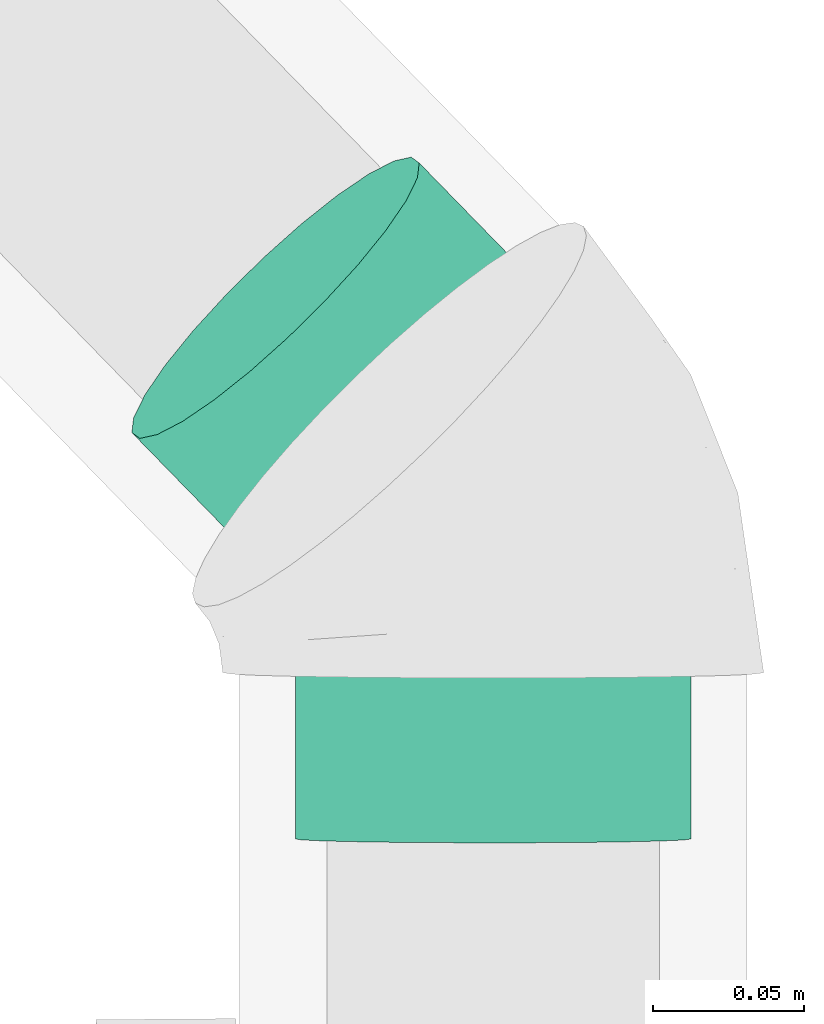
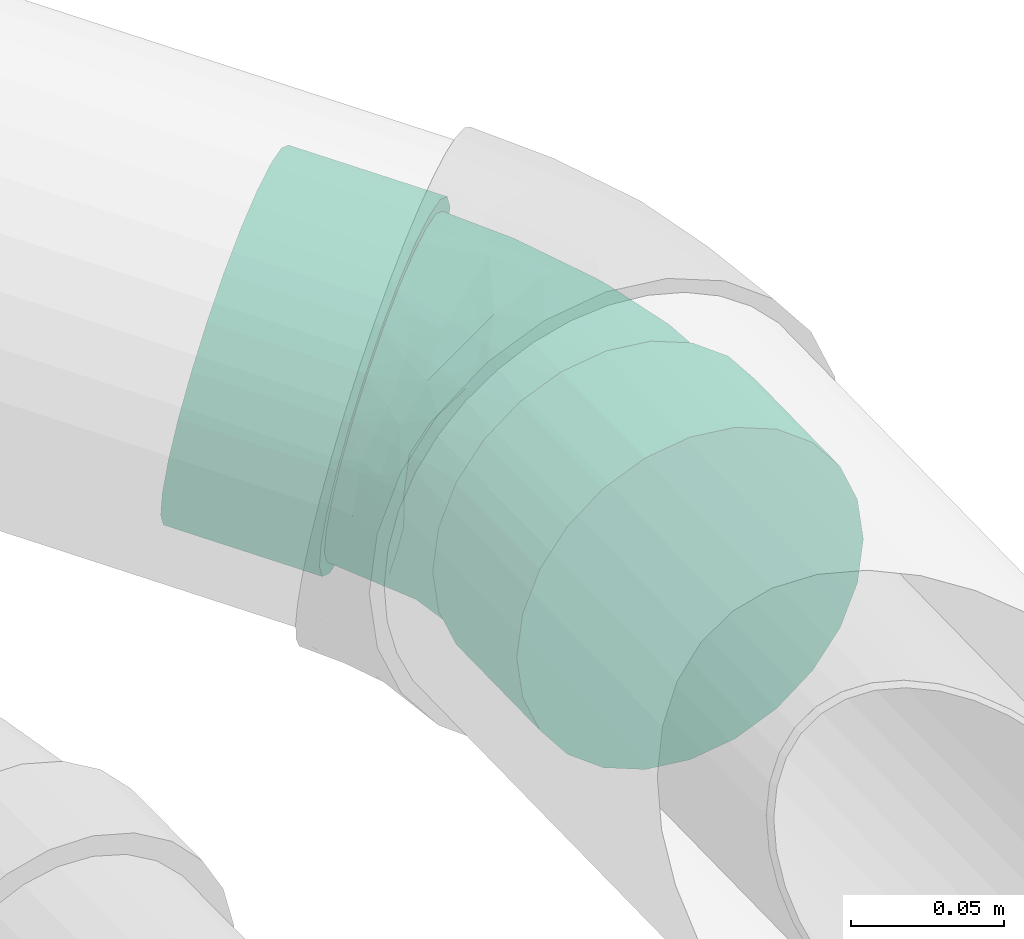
# One storey, part 72 of 78: 1 flow fitting.
"""IFC2X3 building model written with IfcOpenShell, lengths in millimetres."""

from ifc_helpers import new_model, entity, si_unit, converted_unit, derived_unit, direction, frame, origin_with_axes, place, context, subcontext, project, spatial, open_shell, surface_model, source, transform, mapped, type_object, element, save


model = new_model("IFC2X3")

# Units and contexts
model_context = context("Model", 3, precision=0.01, world=frame((0.0, 4.29681676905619e-09, 0.0)), true_north=direction((4.01073788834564e-13, 1.0)))
plan_context = context("Plan", 3, precision=0.01, world=frame((0.0, 4.29681676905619e-09, 0.0)), true_north=direction((4.01073788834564e-13, 1.0)))
body_context = subcontext(model_context, "Body", "Model", "MODEL_VIEW")
ifc_project = project(units=[converted_unit("PLANEANGLEUNIT", "DEGREE", entity("IfcPositiveLengthMeasure", 0.0174532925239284), si_unit("PLANEANGLEUNIT", "RADIAN"), dimensions=[0, 0, 0, 0, 0, 0, 0]), si_unit("AREAUNIT", "SQUARE_METRE"), si_unit("LENGTHUNIT", "METRE", prefix="MILLI"), si_unit("MASSUNIT", "GRAM", prefix="KILO"), si_unit("POWERUNIT", "WATT"), si_unit("PRESSUREUNIT", "PASCAL"), si_unit("FORCEUNIT", "NEWTON", prefix="KILO"), si_unit("ELECTRICVOLTAGEUNIT", "VOLT"), si_unit("ELECTRICCURRENTUNIT", "AMPERE"), si_unit("THERMODYNAMICTEMPERATUREUNIT", "DEGREE_CELSIUS"), si_unit("TIMEUNIT", "SECOND"), si_unit("VOLUMEUNIT", "CUBIC_METRE"), derived_unit("LINEARVELOCITYUNIT", [(si_unit("LENGTHUNIT", "METRE"), 1), (si_unit("TIMEUNIT", "SECOND"), -1)]), derived_unit("VOLUMETRICFLOWRATEUNIT", [(si_unit("VOLUMEUNIT", "CUBIC_METRE"), 1), (si_unit("TIMEUNIT", "SECOND"), -1)]), derived_unit("THERMALTRANSMITTANCEUNIT", [(si_unit("POWERUNIT", "WATT"), 1), (si_unit("THERMODYNAMICTEMPERATUREUNIT", "KELVIN"), -1), (si_unit("AREAUNIT", "SQUARE_METRE"), -1)]), derived_unit("SOUNDPRESSUREUNIT", [(si_unit("PRESSUREUNIT", "PASCAL"), 1)])], contexts=[model_context, plan_context])

# Site, building, storey
site_placement = place(None, frame((0.0, -4.29681676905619e-09, 0.0), z_axis=(0.0, 0.0, 1.0), x_axis=(1.0, 0.0, 0.0)))
site = spatial("IfcSite", under=ifc_project, at=site_placement, Name="ENGM", CompositionType="ELEMENT")
building_placement = place(site_placement, frame((0.0, 4.29681676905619e-09, 0.0), z_axis=(0.0, 0.0, 1.0), x_axis=(1.0, 0.0, 0.0)))
building = spatial("IfcBuilding", under=site, at=building_placement, Name="TH", CompositionType="ELEMENT")
storey_placement = place(building_placement, frame((0.0, 0.0, 205200.0), z_axis=(0.0, 0.0, 1.0), x_axis=(1.0, 0.0, 0.0)))
storey = spatial("IfcBuildingStorey", under=building, at=storey_placement, Name="Nivå D + 1,2 m", CompositionType="ELEMENT", Elevation=205200.0)

# Flow fitting
pipe_fitting_type = type_object("IfcPipeFittingType", Name="magi_sewer_bend_001", PredefinedType="BEND")
shared_shape = source(origin_with_axes(), body_context, "Body", "SurfaceModel", [
    surface_model("IfcShellBasedSurfaceModel", [(-105.11984, -16.95265, -63.26814), (-105.11984, -32.75, -56.72466), (-105.11984, -46.3155, -46.3155), (-105.11984, -63.26814, -16.95265), (-105.11984, -56.72466, -32.75), (-105.11984, 56.72466, -32.75), (-105.11984, 46.3155, -46.3155), (-105.11984, -63.26814, 16.95265), (-105.11984, -56.72466, 32.75), (-105.11984, -46.3155, 46.3155), (-105.11984, -16.95265, 63.26814), (-105.11984, 0.0, 65.5), (-105.11984, -32.75, 56.72466), (-105.11984, 63.26814, 16.95265), (-105.11984, 46.3155, 46.3155), (-105.11984, 56.72466, 32.75), (-105.11984, 16.95265, 63.26814), (-105.11984, 32.75, 56.72466), (-50.11984, -16.95265, 63.26814), (-50.11984, 16.95265, 63.26814), (-50.11984, 0.0, 65.5), (-50.11984, -46.3155, 46.3155), (-50.11984, -32.75, 56.72466), (-50.11984, -56.72466, 32.75), (-50.11984, -63.26814, 16.95265), (-50.11984, 46.3155, 46.3155), (-50.11984, 32.75, 56.72466), (-50.11984, 63.26814, 16.95265), (-50.11984, 56.72466, 32.75), (-50.11984, 63.26814, -16.95265), (-50.11984, 65.5, 0.0), (-50.11984, -63.26814, -16.95265), (-50.11984, 32.75, -56.72466), (-50.11984, -65.5, 0.0), (-50.11984, -16.95265, -63.26814), (-50.11984, -56.72466, -32.75), (-50.11984, -46.3155, -46.3155), (-50.11984, -32.75, -56.72466), (-50.11984, 0.0, -65.5), (-50.11984, 46.3155, -46.3155), (-50.11984, 56.72466, -32.75), (-50.11984, 16.95265, -63.26814), (-105.11984, 63.26814, -16.95265), (-105.11984, 16.95265, -63.26814), (-105.11984, 65.5, 0.0), (-105.11984, 32.75, -56.72466), (-105.11984, 0.0, -65.5), (-105.11984, -65.5, 0.0), (29.59362, 119.06829, 16.95265), (51.17321, 97.4887, -56.72466), (41.58095, 107.08095, -46.3155), (86.31829, 62.34362, 63.26814), (97.4887, 51.17321, 56.72466), (107.08095, 41.58095, 46.3155), (86.31829, 62.34362, -63.26814), (120.64644, 28.01546, 0.0), (81.75557, -10.87541, 0.0), (80.17741, -9.29725, 16.95265), (75.55048, -4.67032, 32.75), (68.19008, 2.69008, 46.3155), (58.59783, 12.28233, 56.72466), (47.42741, 23.45275, 63.26814), (68.19008, 2.69008, -46.3155), (47.42741, 23.45275, -63.26814), (58.59783, 12.28233, -56.72466), (23.45275, 47.42741, -63.26814), (62.34362, 86.31829, -63.26814), (35.44008, 35.44008, -65.5), (12.28233, 58.59783, -56.72466), (-9.29725, 80.17741, -16.95265), (-10.87541, 81.75557, 0.0), (29.59362, 119.06829, -16.95265), (2.69008, 68.19008, -46.3155), (74.33095, 74.33095, -65.5), (34.22056, 114.44134, -32.75), (-4.67032, 75.55048, -32.75), (28.01546, 120.64644, 0.0), (-9.29725, 80.17741, 16.95265), (-4.67032, 75.55048, 32.75), (2.69008, 68.19008, 46.3155), (34.22056, 114.44134, 32.75), (51.17321, 97.4887, 56.72466), (12.28233, 58.59783, 56.72466), (23.45275, 47.42741, 63.26814), (41.58095, 107.08095, 46.3155), (62.34362, 86.31829, 63.26814), (35.44008, 35.44008, 65.5), (74.33095, 74.33095, 65.5), (114.44134, 34.22056, 32.75), (119.06829, 29.59362, 16.95265), (119.06829, 29.59362, -16.95265), (80.17741, -9.29725, -16.95265), (75.55048, -4.67032, -32.75), (114.44134, 34.22056, -32.75), (97.4887, 51.17321, -56.72466), (107.08095, 41.58095, -46.3155), (-50.11984, 15.65855, -58.43851), (-50.11984, 0.0, -60.5), (-50.11984, 58.43851, -15.65855), (-50.11984, 30.25, -52.39454), (-50.11984, 52.39454, -30.25), (-50.11984, 42.77996, -42.77996), (-50.11984, -60.5, 0.0), (-50.11984, -30.25, -52.39454), (-50.11984, -42.77996, -42.77996), (-50.11984, -15.65855, -58.43851), (-50.11984, -58.43851, -15.65855), (-50.11984, -52.39454, -30.25), (-50.11984, -58.43851, 15.65855), (-50.11984, 58.43851, 15.65855), (-50.11984, 52.39454, 30.25), (-50.11984, 42.77996, 42.77996), (-50.11984, 30.25, 52.39454), (-50.11984, 15.65855, 58.43851), (-50.11984, -52.39454, 30.25), (-50.11984, -42.77996, 42.77996), (-50.11984, -30.25, 52.39454), (-50.11984, -15.65855, 58.43851), (-50.11984, 0.0, 60.5), (-50.11984, 60.5, 0.0), (-5.88219, 76.76235, -15.65855), (35.44008, 35.44008, -60.5), (24.36781, 46.51235, -58.43851), (14.0501, 56.83006, -52.39454), (5.19008, 65.69008, -42.77996), (-1.60845, 72.48861, -30.25), (72.48861, -1.60845, -30.25), (78.22004, -7.33988, 0.0), (76.76235, -5.88219, -15.65855), (65.69008, 5.19008, -42.77996), (72.48861, -1.60845, 30.25), (56.83006, 14.0501, 52.39454), (65.69008, 5.19008, 42.77996), (76.76235, -5.88219, 15.65855), (35.44008, 35.44008, 60.5), (46.51235, 24.36781, 58.43851), (15.40898, -37.20057, 33.71482), (-13.38469, -34.19321, 46.68416), (-19.53618, -46.27104, 35.42508), (-20.21421, -56.56285, 0.0), (-3.14418, -54.31554, 0.0), (-12.91334, -55.73755, 10.33096), (46.53273, -18.9044, 35.42508), (-23.97238, -22.18485, 55.29389), (6.21199, -14.99708, 54.53161), (24.36781, 46.51235, 58.43851), (1.79579, 36.37132, 56.46814), (10.937, 28.63799, 59.62004), (-18.05654, -5.82509, 59.69848), (-5.75437, 13.89228, 60.2874), (-30.31328, 8.38356, 60.13285), (-17.18515, 41.48861, 49.39252), (-26.68033, 50.73817, 38.17957), (32.63809, 1.26397, 55.29389), (-23.24601, 25.1757, 56.55898), (14.0501, 56.83006, 52.39454), (5.19008, 65.69008, 42.77996), (23.34807, -39.59646, 23.84351), (-10.84785, -52.34167, 21.0101), (18.78371, -45.3479, 13.14971), (-24.92328, 60.17012, 24.85601), (48.54351, -30.28129, 10.33096), (54.28958, -25.70237, 0.0), (-24.23293, 64.82746, 12.71177), (44.68174, -29.34056, 21.0101), (16.88687, 8.64894, 59.69848), (33.64265, -14.71385, 46.68416), (-1.60845, 72.48861, 30.25), (-5.88219, 76.76235, 15.65855), (-26.96749, 65.10529, 0.0), (-7.33988, 78.22004, 0.0), (10.1548, -24.51586, 48.24539), (18.74299, -45.24957, 0.0), (40.63016, -36.18361, 0.0), (-18.05654, -5.82509, -59.69848), (-12.91334, -55.73755, -10.33096), (18.78371, -45.3479, -13.1497), (46.51235, 24.36781, -58.43851), (16.88687, 8.64894, -59.69848), (-26.98822, 24.44859, -56.46814), (-27.98374, 12.51649, -59.62004), (-17.01146, 54.74315, -38.17957), (56.83006, 14.0501, -52.39454), (33.64265, -14.71385, -46.68416), (-24.92328, 60.17012, -24.85601), (44.68174, -29.34056, -21.0101), (-28.70466, 62.9752, -12.71176), (-1.3645, 34.23932, -56.55898), (-10.84785, -52.34167, -21.0101), (-17.18515, 41.48861, -49.39253), (-19.53618, -46.27104, -35.42508), (-13.38469, -34.19321, -46.68416), (10.1548, -24.51586, -48.24539), (15.40898, -37.20057, -33.71482), (-23.97238, -22.18485, -55.29389), (32.63809, 1.26397, -55.29389), (6.21199, -14.99708, -54.53161), (48.54351, -30.28129, -10.33096), (15.50665, 27.3628, -60.13285), (11.48935, -44.50851, -23.84351), (46.53273, -18.9044, -35.42508), (-5.75437, 13.89228, -60.2874)], [open_shell([[[0, 1, 2]], [[0, 2, 3]], [[3, 2, 4]], [[0, 5, 6]], [[7, 8, 9]], [[10, 11, 9]], [[10, 9, 12]], [[13, 14, 15]], [[14, 16, 17]], [[16, 14, 13]], [[18, 19, 20]], [[21, 18, 22]], [[21, 23, 24]], [[18, 21, 19]], [[24, 19, 21]], [[19, 25, 26]], [[25, 19, 27]], [[25, 27, 28]], [[19, 24, 27]], [[27, 29, 30]], [[27, 24, 29]], [[31, 32, 33]], [[34, 31, 35]], [[36, 37, 34]], [[36, 34, 35]], [[38, 31, 34]], [[33, 39, 40]], [[40, 29, 33]], [[32, 38, 41]], [[32, 39, 33]], [[32, 31, 38]], [[33, 29, 24]], [[29, 42, 30]], [[40, 5, 29]], [[41, 38, 43]], [[39, 6, 40]], [[29, 5, 42]], [[42, 44, 30]], [[45, 32, 43]], [[45, 6, 39]], [[32, 41, 43]], [[6, 5, 40]], [[39, 32, 45]], [[38, 46, 43]], [[0, 34, 37]], [[36, 1, 37]], [[4, 35, 31]], [[36, 35, 2]], [[3, 31, 33]], [[34, 0, 46]], [[37, 1, 0]], [[36, 2, 1]], [[35, 4, 2]], [[3, 4, 31]], [[33, 47, 3]], [[34, 46, 38]], [[24, 7, 33]], [[23, 8, 24]], [[22, 12, 21]], [[21, 9, 23]], [[24, 8, 7]], [[7, 47, 33]], [[11, 10, 18]], [[10, 12, 22]], [[9, 21, 12]], [[9, 8, 23]], [[18, 10, 22]], [[18, 20, 11]], [[16, 19, 26]], [[25, 17, 26]], [[15, 28, 27]], [[25, 28, 14]], [[13, 27, 30]], [[19, 16, 11]], [[26, 17, 16]], [[25, 14, 17]], [[28, 15, 14]], [[13, 15, 27]], [[30, 44, 13]], [[19, 11, 20]], [[48, 49, 50]], [[51, 52, 53]], [[54, 51, 53]], [[54, 53, 55]], [[56, 57, 58]], [[59, 60, 61]], [[62, 63, 64]], [[65, 66, 67]], [[68, 49, 65]], [[69, 70, 71]], [[72, 50, 68]], [[65, 49, 66]], [[66, 73, 67]], [[74, 75, 71]], [[74, 50, 72]], [[75, 69, 71]], [[50, 49, 68]], [[72, 75, 74]], [[70, 76, 71]], [[48, 77, 78]], [[79, 80, 78]], [[81, 82, 83]], [[79, 82, 84]], [[85, 83, 86]], [[77, 48, 76]], [[78, 80, 48]], [[79, 84, 80]], [[82, 81, 84]], [[85, 81, 83]], [[86, 87, 85]], [[77, 76, 70]], [[61, 51, 86]], [[60, 52, 61]], [[58, 88, 59]], [[59, 53, 60]], [[61, 52, 51]], [[51, 87, 86]], [[55, 89, 57]], [[89, 88, 58]], [[53, 59, 88]], [[53, 52, 60]], [[57, 89, 58]], [[57, 56, 55]], [[90, 91, 92]], [[62, 93, 92]], [[94, 64, 63]], [[62, 64, 95]], [[54, 63, 67]], [[91, 90, 55]], [[92, 93, 90]], [[62, 95, 93]], [[64, 94, 95]], [[54, 94, 63]], [[67, 73, 54]], [[91, 55, 56]], [[96, 97, 98]], [[99, 96, 98]], [[98, 100, 101]], [[99, 98, 101]], [[102, 98, 97]], [[103, 104, 105]], [[104, 97, 105]], [[106, 102, 107]], [[104, 107, 102]], [[104, 102, 97]], [[102, 108, 98]], [[109, 98, 108]], [[110, 109, 111]], [[112, 109, 108]], [[111, 109, 112]], [[113, 112, 108]], [[114, 115, 108]], [[116, 108, 115]], [[117, 118, 116]], [[108, 116, 118]], [[118, 113, 108]], [[119, 98, 109]], [[120, 121, 122]], [[120, 122, 123]], [[124, 125, 120]], [[124, 120, 123]], [[126, 127, 128]], [[127, 126, 129]], [[130, 131, 132]], [[131, 130, 133]], [[131, 134, 135]], [[134, 131, 133]], [[136, 137, 138]], [[139, 140, 141]], [[116, 115, 137]], [[130, 132, 142]], [[143, 137, 144]], [[138, 137, 115]], [[145, 146, 147]], [[117, 116, 143]], [[148, 149, 150]], [[118, 117, 148]], [[111, 151, 152]], [[131, 135, 153]], [[150, 113, 118]], [[112, 154, 151]], [[108, 139, 141]], [[155, 156, 151]], [[157, 158, 159]], [[151, 111, 112]], [[115, 114, 138]], [[110, 152, 160]], [[109, 110, 160]], [[133, 161, 162]], [[163, 119, 109]], [[164, 157, 159]], [[158, 141, 159]], [[112, 113, 154]], [[134, 147, 165]], [[132, 131, 166]], [[167, 168, 160]], [[165, 135, 134]], [[136, 138, 158]], [[132, 166, 142]], [[149, 147, 146]], [[166, 131, 153]], [[114, 158, 138]], [[161, 133, 164]], [[136, 142, 166]], [[150, 154, 113]], [[136, 157, 142]], [[109, 160, 163]], [[114, 108, 158]], [[169, 163, 170]], [[137, 171, 144]], [[168, 163, 160]], [[144, 165, 148]], [[167, 160, 152]], [[144, 153, 165]], [[167, 152, 156]], [[149, 148, 165]], [[145, 155, 146]], [[146, 151, 154]], [[143, 148, 117]], [[110, 111, 152]], [[164, 133, 130]], [[164, 130, 142]], [[171, 136, 166]], [[156, 152, 151]], [[151, 146, 155]], [[149, 146, 154]], [[137, 143, 116]], [[148, 143, 144]], [[165, 153, 135]], [[166, 153, 144]], [[108, 102, 139]], [[159, 140, 172]], [[108, 141, 158]], [[140, 159, 141]], [[161, 159, 173]], [[162, 161, 173]], [[162, 127, 133]], [[159, 161, 164]], [[165, 147, 149]], [[134, 145, 147]], [[148, 150, 118]], [[154, 150, 149]], [[136, 171, 137]], [[166, 144, 171]], [[170, 163, 168]], [[163, 169, 119]], [[142, 157, 164]], [[158, 157, 136]], [[173, 159, 172]], [[105, 97, 174]], [[140, 175, 176]], [[121, 177, 178]], [[179, 180, 96]], [[100, 181, 101]], [[182, 129, 183]], [[184, 181, 100]], [[126, 128, 185]], [[98, 186, 184]], [[123, 122, 187]], [[106, 175, 139]], [[99, 179, 96]], [[175, 106, 188]], [[124, 189, 181]], [[188, 107, 190]], [[190, 104, 191]], [[104, 103, 191]], [[192, 193, 191]], [[106, 107, 188]], [[104, 190, 107]], [[194, 103, 105]], [[195, 178, 177]], [[120, 125, 184]], [[196, 194, 174]], [[119, 169, 186]], [[193, 190, 191]], [[170, 120, 186]], [[196, 174, 178]], [[124, 123, 189]], [[184, 100, 98]], [[125, 181, 184]], [[194, 191, 103]], [[187, 189, 123]], [[180, 174, 97]], [[189, 187, 179]], [[101, 189, 99]], [[128, 162, 197]], [[198, 122, 121]], [[195, 177, 182]], [[199, 185, 176]], [[129, 200, 183]], [[196, 195, 183]], [[129, 126, 200]], [[201, 198, 178]], [[200, 193, 183]], [[201, 178, 174]], [[197, 162, 173]], [[198, 187, 122]], [[201, 180, 179]], [[175, 188, 176]], [[193, 199, 190]], [[183, 192, 196]], [[126, 185, 200]], [[120, 184, 186]], [[193, 200, 185]], [[125, 124, 181]], [[101, 181, 189]], [[189, 179, 99]], [[201, 179, 187]], [[174, 194, 105]], [[191, 194, 196]], [[183, 195, 182]], [[178, 195, 196]], [[139, 175, 140]], [[139, 102, 106]], [[199, 176, 188]], [[197, 176, 185]], [[176, 173, 172]], [[128, 127, 162]], [[176, 197, 173]], [[128, 197, 185]], [[174, 180, 201]], [[97, 96, 180]], [[178, 198, 121]], [[187, 198, 201]], [[193, 192, 183]], [[191, 196, 192]], [[119, 186, 98]], [[186, 169, 170]], [[190, 199, 188]], [[185, 199, 193]], [[140, 176, 172]], [[0, 3, 5]], [[5, 3, 47]], [[0, 43, 46]], [[0, 45, 43]], [[6, 45, 0]], [[47, 42, 5]], [[47, 7, 42]], [[42, 9, 13]], [[13, 9, 11]], [[44, 42, 13]], [[11, 16, 13]], [[42, 7, 9]], [[85, 48, 81]], [[54, 95, 94]], [[95, 90, 93]], [[79, 83, 82]], [[79, 78, 77]], [[177, 129, 182]], [[177, 121, 129]], [[168, 120, 170]], [[71, 50, 74]], [[55, 90, 54]], [[63, 65, 67]], [[133, 145, 134]], [[81, 48, 80]], [[81, 80, 84]], [[72, 69, 75]], [[120, 168, 155]], [[63, 61, 86]], [[155, 167, 156]], [[49, 73, 66]], [[91, 62, 92]], [[70, 68, 65]], [[65, 77, 70]], [[49, 48, 73]], [[48, 85, 73]], [[71, 76, 48]], [[50, 71, 48]], [[85, 87, 73]], [[88, 89, 55]], [[88, 55, 53]], [[54, 73, 51]], [[90, 95, 54]], [[51, 73, 87]], [[91, 56, 58]], [[91, 58, 59]], [[63, 59, 61]], [[62, 91, 63]], [[91, 59, 63]], [[79, 86, 83]], [[79, 77, 86]], [[77, 65, 63]], [[68, 70, 72]], [[69, 72, 70]], [[77, 63, 86]], [[121, 120, 129]], [[129, 133, 127]], [[129, 120, 133]], [[155, 168, 167]], [[120, 155, 133]], [[133, 155, 145]]])]),
])
flow_fitting_placement = place(storey_placement, frame((903902.88819, 480154.2919, 4173.07676999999), z_axis=(0.246527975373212, -0.0193789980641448, 0.968941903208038), x_axis=(3.94365855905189e-08, 0.99980005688, 0.0199961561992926)))
element("IfcFlowFitting", 1, at=flow_fitting_placement, inside=storey, type_object=pipe_fitting_type, Name="magi_sewer_bend_001", context=body_context, shape_type="MappedRepresentation", body=[
    mapped(shared_shape, transform((0.0, 0.0, 0.0), scale=1.0)),
])

save(model, "model.ifc")
